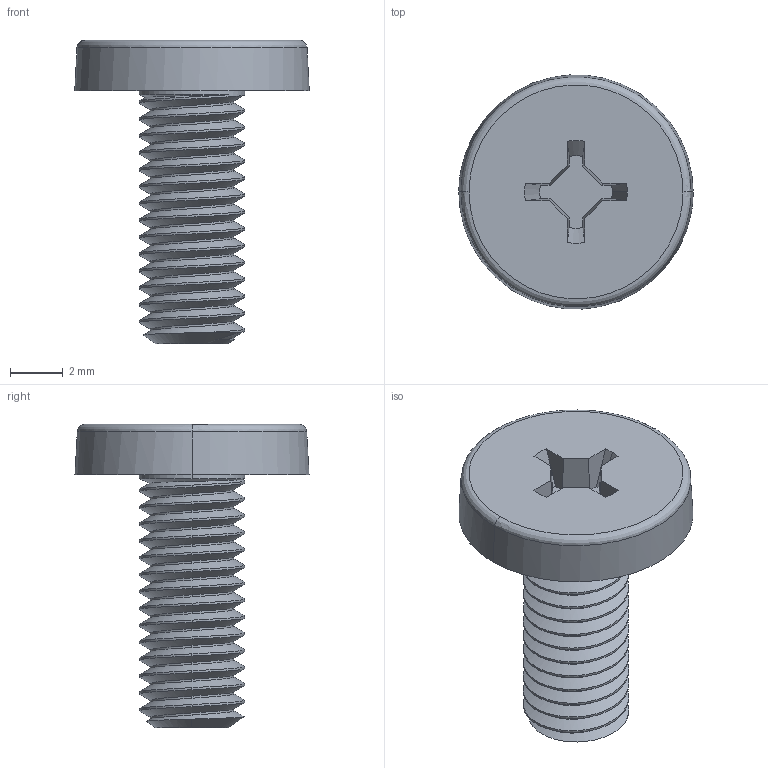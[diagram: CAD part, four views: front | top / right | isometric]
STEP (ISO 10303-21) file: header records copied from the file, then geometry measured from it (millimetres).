
FILE_DESCRIPTION(/* description */ (''),/* implementation_level */ '2;1');
FILE_NAME(/* name */ 'PANCAK~2',/* time_stamp */ '2020-01-25T13:38:58+01:00',/* author */ (''),/* organization */ (''),/* preprocessor_version */ 'ST-DEVELOPER v16.5',/* originating_system */ '',/* authorisation */ '');
FILE_SCHEMA (('AUTOMOTIVE_DESIGN'));
Length unit declared in the file: millimetre
Products named in the file (1): Document
Bounding box: 8.89 x 8.87 x 11.51 mm (x, y, z)
Volume: 206.3 mm3; surface area: 367.4 mm2
Topology: 1 solids, 1 shells, 92 faces, 261 edges, 173 vertices
Faces by surface type: bspline 76, plane 16
Entity records: 5428 total; most frequent: CARTESIAN_POINT 3996, ORIENTED_EDGE 522, EDGE_CURVE 261, VERTEX_POINT 173, B_SPLINE_CURVE_WITH_KNOTS 114, EDGE_LOOP 94, ADVANCED_FACE 92, FACE_OUTER_BOUND 92
